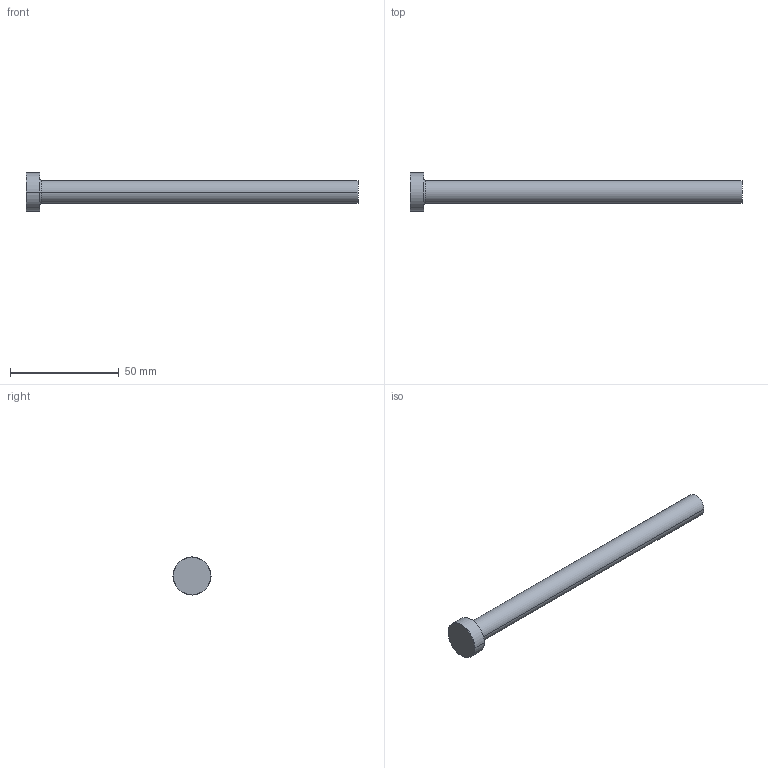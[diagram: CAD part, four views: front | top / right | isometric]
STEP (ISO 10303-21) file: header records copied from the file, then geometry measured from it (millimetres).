
FILE_DESCRIPTION (( 'STEP AP214' ), '1' );
FILE_NAME ('P27-6.STEP', '2020-03-12T10:07:04', ( '' ), ( '' ), 'SwSTEP 2.0', 'SolidWorks 2018', '' );
FILE_SCHEMA (( 'AUTOMOTIVE_DESIGN' ));
Length unit declared in the file: inch
Products named in the file (1): P27-6
Bounding box: 152.4 x 17.46 x 17.46 mm (x, y, z)
Volume: 13720 mm3; surface area: 5541.5 mm2
Topology: 1 solids, 1 shells, 13 faces, 24 edges, 14 vertices
Faces by surface type: cone 4, cylinder 4, plane 3, torus 2
Entity records: 366 total; most frequent: DIRECTION 68, CARTESIAN_POINT 52, ORIENTED_EDGE 48, AXIS2_PLACEMENT_3D 30, EDGE_CURVE 24, CIRCLE 16, VERTEX_POINT 14, EDGE_LOOP 14
